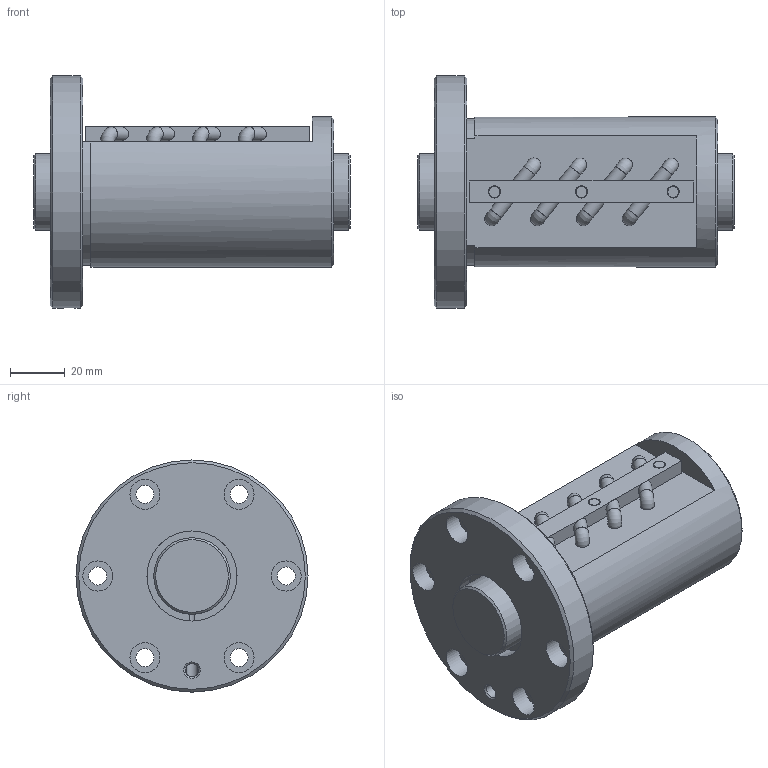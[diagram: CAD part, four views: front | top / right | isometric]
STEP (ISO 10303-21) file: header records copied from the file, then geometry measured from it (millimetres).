
FILE_DESCRIPTION(/* description */ ('STEP AP203'),/* implementation_level */ '2;1');
FILE_NAME(/* name */ 'BIF2806V-10RRG0+116LC0_000',/* time_stamp */ '2024-07-15T08:18:15+02:00',/* author */ ('License CC BY-ND 4.0'),/* organization */ ('CADENAS'),/* preprocessor_version */ 'ST-DEVELOPER v19.3',/* originating_system */ 'PARTsolutions',/* authorisation */ ' ');
FILE_SCHEMA (('CONFIG_CONTROL_DESIGN'));
Length unit declared in the file: millimetre
Products named in the file (3): BIF2806V-10RRG0+116LC0_000; BIF2806V-10RR000 Shaft; BIF2806V-10RR Nut
Assembly tree (2 placements, depth 2):
  BIF2806V-10RRG0+116LC0_000
    BIF2806V-10RR000 Shaft
    BIF2806V-10RR Nut
Bounding box: 116 x 85 x 85 mm (x, y, z)
Volume: 268911.9 mm3; surface area: 53759.6 mm2
Topology: 2 solids, 2 shells, 113 faces, 262 edges, 167 vertices
Faces by surface type: plane 53, cylinder 44, cone 8, torus 8
Full cylindrical faces by diameter (mm): 4 x3, 4.25 x2, 4.5 x3, 4.917 x1, 5.1 x8, 6.6 x6, 11 x6, 28 x2, 33 x2, 55 x1, 85 x1
Entity records: 3135 total; most frequent: CARTESIAN_POINT 601, DIRECTION 562, ORIENTED_EDGE 406, AXIS2_PLACEMENT_3D 258, EDGE_CURVE 203, EDGE_LOOP 202, FACE_BOUND 202, VERTEX_POINT 151
